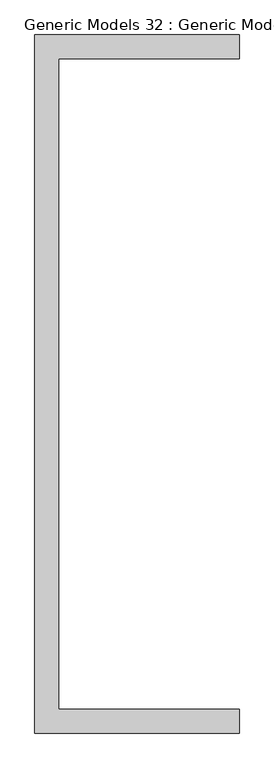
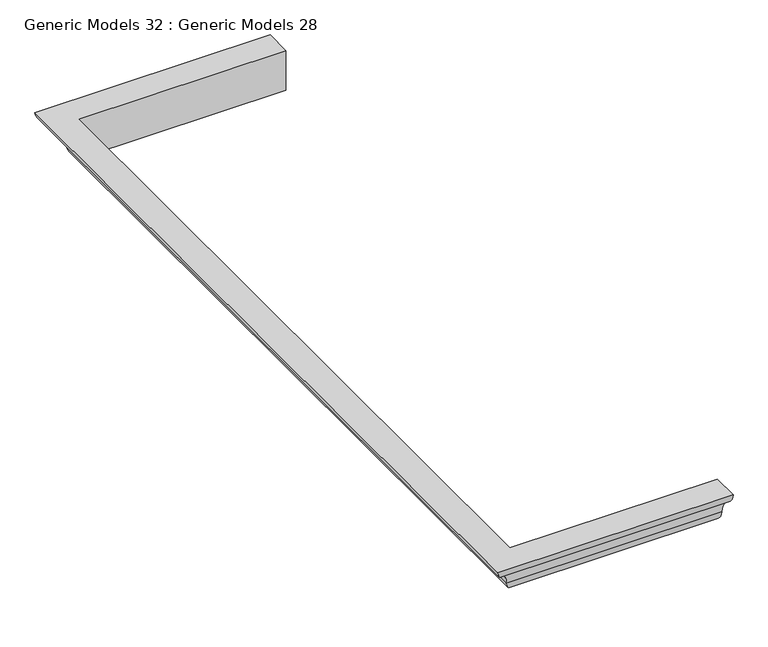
"""IFC4 building model written with IfcOpenShell, lengths in millimetres: proxy geometry, Generic Models 32 : Generic Models 28."""

from ifc_helpers import new_model, si_unit, frame, origin, place, context, project, spatial, polyline, circle_curve, ellipse_curve, source, transform, mapped, element, save
from ifc_brep_helpers import plane_surface, cylinder_surface, revolved_surface, advanced_brep


def generic_models_32_generic_models_28_5d53510e(model_context):
    return source(origin(), model_context, "Body", "AdvancedBrep", [
        advanced_brep(
        [(3937.0, 7289.6947939, 5867.4), (3937.0, 7303.7841788, 5888.5340775), (3937.0, 7326.4054089, 5922.4659225), (3937.0, 7340.4947939, 5943.6), (3937.0, 7289.6947939, 5943.6), (3541.910615, 7303.7841788, 5888.5340775), (3556.0, 7289.6947939, 5867.4), (3556.0, 5918.0947939, 5867.4), (3541.910615, 5904.0054089, 5888.5340775), (3519.289385, 7326.4054089, 5922.4659225), (3519.289385, 5881.3841788, 5922.4659225), (3505.2, 7340.4947939, 5943.6), (3505.2, 5867.2947939, 5943.6), (3556.0, 7289.6947939, 5943.6), (3556.0, 5918.0947939, 5943.6), (3937.0, 5918.0947939, 5867.4), (3937.0, 5918.0947939, 5943.6), (3937.0, 5867.2947939, 5943.6), (3937.0, 5881.3841788, 5922.4659225), (3937.0, 5904.0054089, 5888.5340775)],
        [
            (0, 1, circle_curve(frame((3937.0, 7275.715854, 5891.9827937), z_axis=(1.0, 0.0, 0.0), x_axis=(0.0, -1.0, 0.0)), 28.2794007)),
            (1, 2, circle_curve(frame((3937.0, 7348.8493136, 5882.9969868), z_axis=(-1.0, 0.0, 0.0), x_axis=(0.0, -1.0, 0.0)), 45.4040279)),
            (2, 3, circle_curve(frame((3937.0, 7312.426469, 5947.0487162), z_axis=(1.0, 0.0, 0.0), x_axis=(0.0, -1.0, 0.0)), 28.2794007)),
            (3, 4),
            (4, 0),
            (5, 6, ellipse_curve(frame((3569.9789399, 7275.715854, 5891.9827937), z_axis=(-0.7071067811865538, -0.7071067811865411, 0.0), x_axis=(-0.707106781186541, 0.7071067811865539, 0.0)), 39.993112, 28.2794007)),
            (6, 7),
            (7, 8, ellipse_curve(frame((3569.9789399, 5932.0737337, 5891.9827937), z_axis=(-0.7071067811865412, 0.7071067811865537, 0.0), x_axis=(0.7071067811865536, 0.7071067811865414, 0.0)), 39.993112, 28.2794007)),
            (8, 5),
            (9, 5, ellipse_curve(frame((3496.8454802, 7348.8493136, 5882.9969868), z_axis=(0.7071067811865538, 0.7071067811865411, 0.0), x_axis=(0.707106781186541, -0.7071067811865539, 0.0)), 64.210992, 45.4040279)),
            (8, 10, ellipse_curve(frame((3496.8454802, 5858.9402741, 5882.9969868), z_axis=(0.7071067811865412, -0.7071067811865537, 0.0), x_axis=(-0.7071067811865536, -0.7071067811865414, 0.0)), 64.210992, 45.4040279)),
            (10, 9),
            (11, 9, ellipse_curve(frame((3533.2683249, 7312.426469, 5947.0487162), z_axis=(-0.7071067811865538, -0.7071067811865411, 0.0), x_axis=(-0.707106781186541, 0.7071067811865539, 0.0)), 39.993112, 28.2794007)),
            (10, 12, ellipse_curve(frame((3533.2683249, 5895.3631187, 5947.0487162), z_axis=(-0.7071067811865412, 0.7071067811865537, 0.0), x_axis=(0.7071067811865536, 0.7071067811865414, 0.0)), 39.993112, 28.2794007)),
            (12, 11),
            (6, 13),
            (13, 14),
            (14, 7),
            (15, 16),
            (16, 17),
            (17, 18, circle_curve(frame((3937.0, 5895.3631187, 5947.0487162), z_axis=(1.0, 0.0, 0.0), x_axis=(0.0, 1.0, 0.0)), 28.2794007)),
            (18, 19, circle_curve(frame((3937.0, 5858.9402741, 5882.9969868), z_axis=(-1.0, 0.0, 0.0), x_axis=(0.0, 1.0, 0.0)), 45.4040279)),
            (19, 15, circle_curve(frame((3937.0, 5932.0737337, 5891.9827937), z_axis=(1.0, 0.0, 0.0), x_axis=(0.0, 1.0, 0.0)), 28.2794007)),
            (0, 6),
            (5, 1),
            (9, 2),
            (11, 3),
            (12, 17),
            (16, 14),
            (13, 4),
            (7, 15),
            (19, 8),
            (18, 10),
        ],
        [
            plane_surface(frame((3937.0, 7289.6947939, 5867.4), z_axis=(1.0, 0.0, 0.0), x_axis=(0.0, 0.0, 1.0))),
            cylinder_surface(frame((3569.9789399, 7289.6947939, 5891.9827937), z_axis=(0.0, 1.0, 0.0), x_axis=(1.0, 0.0, 0.0)), 28.2794007),
            revolved_surface(polyline([(3542.2495081, 5813.536246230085, 5882.9969868), (3542.2495081, 7394.2533414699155, 5882.9969868)]), (3496.8454802, 7289.6947939, 5882.9969868), (0.0, -1.0, 0.0)),
            cylinder_surface(frame((3533.2683249, 7289.6947939, 5947.0487162), z_axis=(0.0, 1.0, 0.0), x_axis=(1.0, 0.0, 0.0)), 28.2794007),
            plane_surface(frame((3556.0, 7289.6947939, 5943.6), z_axis=(1.0, 0.0, 0.0), x_axis=(0.0, -1.0, 0.0))),
            plane_surface(frame((3937.0, 5918.0947939, 5867.4), z_axis=(1.0, 0.0, 0.0), x_axis=(0.0, 0.0, 1.0))),
            cylinder_surface(frame((3937.0, 7275.715854, 5891.9827937), z_axis=(1.0, 0.0, 0.0), x_axis=(0.0, -1.0, 0.0)), 28.2794007),
            revolved_surface(polyline([(3451.441452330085, 7303.4452857, 5882.9969868), (3937.0, 7303.4452857, 5882.9969868)]), (3937.0, 7348.8493136, 5882.9969868), (-1.0, 0.0, 0.0)),
            cylinder_surface(frame((3937.0, 7312.426469, 5947.0487162), z_axis=(1.0, 0.0, 0.0), x_axis=(0.0, -1.0, 0.0)), 28.2794007),
            plane_surface(frame((3937.0, 7340.4947939, 5943.6), z_axis=(0.0, 0.0, 1.0), x_axis=(-1.0, 0.0, 0.0))),
            plane_surface(frame((3937.0, 7289.6947939, 5943.6), z_axis=(0.0, -1.0, 0.0), x_axis=(-1.0, 0.0, 0.0))),
            cylinder_surface(frame((3556.0, 5932.0737337, 5891.9827937), z_axis=(-1.0, 0.0, 0.0), x_axis=(0.0, 1.0, 0.0)), 28.2794007),
            revolved_surface(polyline([(3937.0, 5904.344302, 5882.9969868), (3451.4414523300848, 5904.344302, 5882.9969868)]), (3556.0, 5858.9402741, 5882.9969868), (1.0, 0.0, 0.0)),
            cylinder_surface(frame((3556.0, 5895.3631187, 5947.0487162), z_axis=(-1.0, 0.0, 0.0), x_axis=(0.0, 1.0, 0.0)), 28.2794007),
            plane_surface(frame((3556.0, 5918.0947939, 5943.6), z_axis=(0.0, 1.0, 0.0), x_axis=(1.0, 0.0, 0.0))),
        ],
        [
            (0, [[1, 2, 3, 4, 5]]),
            (1, [[6, 7, 8, 9]]),
            (2, [[10, -9, 11, 12]]),
            (3, [[13, -12, 14, 15]]),
            (4, [[16, 17, 18, -7]]),
            (5, [[19, 20, 21, 22, 23]]),
            (6, [[-1, 24, -6, 25]]),
            (7, [[-2, -25, -10, 26]]),
            (8, [[-3, -26, -13, 27]]),
            (9, [[-4, -27, -15, 28, -20, 29, -17, 30]]),
            (10, [[-5, -30, -16, -24]]),
            (11, [[-8, 31, -23, 32]]),
            (12, [[-11, -32, -22, 33]]),
            (13, [[-14, -33, -21, -28]]),
            (14, [[-18, -29, -19, -31]]),
        ],
    ),
    ])


if __name__ == "__main__":
    model = new_model("IFC4")
    model_context = context("Model", 3, world=origin())
    ifc_project = project(units=[si_unit("LENGTHUNIT", "METRE", prefix="MILLI")], contexts=[model_context])
    site = spatial("IfcSite", under=ifc_project)
    building = spatial("IfcBuilding", under=site)
    placement = place(None, origin())
    generic_models_32_generic_models_28_shape = generic_models_32_generic_models_28_5d53510e(model_context)
    element("IfcBuildingElementProxy", 1, Name="Generic Models 32 : Generic Models 28", ObjectType="Generic Models 32 : Generic Models 28", at=placement, inside=building, context=model_context, shape_type="MappedRepresentation", body=[
        mapped(generic_models_32_generic_models_28_shape, transform((0.0, 0.0, 0.0), x_axis=(1.0, 0.0, 0.0), y_axis=(0.0, 1.0, 0.0), z_axis=(0.0, 0.0, 1.0))),
    ])
    save(model, "model.ifc")
